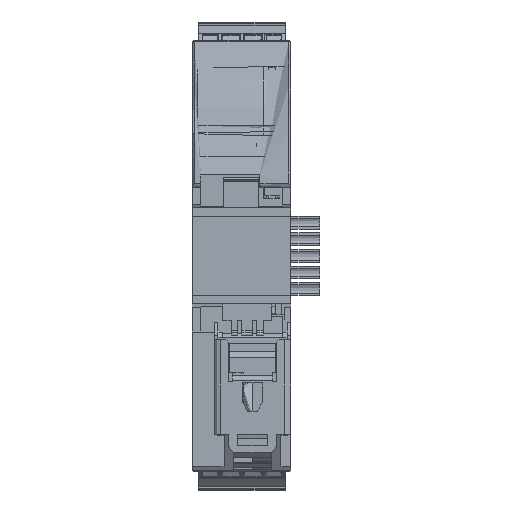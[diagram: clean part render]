
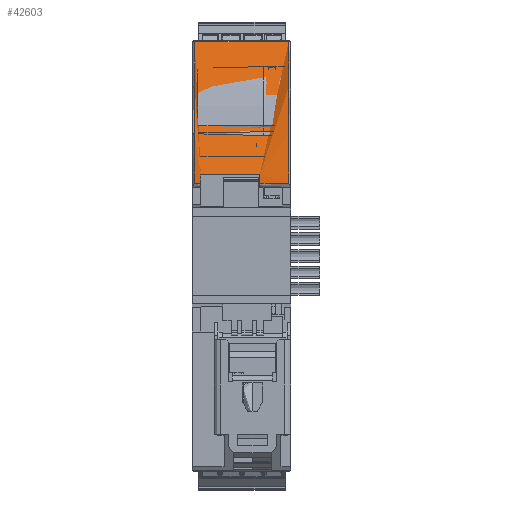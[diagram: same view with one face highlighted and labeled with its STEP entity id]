
A CAD part, left-side view. The second image highlights one B-rep face of the part: STEP entity #42603.
In plain terms, the highlighted cylindrical face has radius 80 mm (diameter 160 mm), a partial arc.
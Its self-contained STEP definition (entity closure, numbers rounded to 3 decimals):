
#42603=ADVANCED_FACE('',(#99639),#99641,.T.);
#99639=FACE_BOUND('',#99640,.T.);
#99640=EDGE_LOOP('',(#155761,#155762,#155763,#155764,#155765,#155766,#155767,#155768));
#99641=CYLINDRICAL_SURFACE('',#99642,80.);
#99642=AXIS2_PLACEMENT_3D('',#99643,#99644,#99645);
#99643=CARTESIAN_POINT('',(75.75,12.1,13.5));
#99644=DIRECTION('',(0.,-1.,0.));
#99645=DIRECTION('',(0.,0.,-1.));
#155761=ORIENTED_EDGE('',*,*,#184090,.F.);
#155762=ORIENTED_EDGE('',*,*,#184081,.T.);
#155763=ORIENTED_EDGE('',*,*,#184096,.F.);
#155764=ORIENTED_EDGE('',*,*,#182865,.F.);
#155765=ORIENTED_EDGE('',*,*,#182862,.T.);
#155766=ORIENTED_EDGE('',*,*,#187227,.T.);
#155767=ORIENTED_EDGE('',*,*,#182748,.T.);
#155768=ORIENTED_EDGE('',*,*,#182746,.T.);
#182746=EDGE_CURVE('',#212554,#212552,#212555,.T.);
#182748=EDGE_CURVE('',#212557,#212554,#212558,.T.);
#182862=EDGE_CURVE('',#212752,#212753,#212754,.T.);
#182865=EDGE_CURVE('',#212752,#212757,#212758,.T.);
#184081=EDGE_CURVE('',#214635,#214633,#214636,.T.);
#184090=EDGE_CURVE('',#214635,#212552,#214649,.T.);
#184096=EDGE_CURVE('',#212757,#214633,#214657,.T.);
#187227=EDGE_CURVE('',#212753,#212557,#219477,.T.);
#212552=VERTEX_POINT('',#274993);
#212554=VERTEX_POINT('',#274998);
#212555=LINE('',#274999,#275000);
#212557=VERTEX_POINT('',#275071);
#212558=CIRCLE('',#275072,80.);
#212752=VERTEX_POINT('',#275621);
#212753=VERTEX_POINT('',#275622);
#212754=CIRCLE('',#275623,80.);
#212757=VERTEX_POINT('',#275713);
#212758=LINE('',#275714,#275715);
#214633=VERTEX_POINT('',#281179);
#214635=VERTEX_POINT('',#281183);
#214636=LINE('',#281184,#281185);
#214649=CIRCLE('',#281215,80.);
#214657=CIRCLE('',#281236,80.);
#219477=LINE('',#293216,#293217);
#274993=CARTESIAN_POINT('',(-4.184,20.7,16.741));
#274998=CARTESIAN_POINT('',(-4.184,22.1,16.741));
#274999=CARTESIAN_POINT('',(-4.184,22.1,16.741));
#275000=VECTOR('',#275001,1.);
#275001=DIRECTION('',(0.,-1.,0.));
#275071=CARTESIAN_POINT('',(4.169,22.1,49.223));
#275072=AXIS2_PLACEMENT_3D('',#275073,#275074,#275075);
#275073=CARTESIAN_POINT('',(75.75,22.1,13.5));
#275074=DIRECTION('',(0.,-1.,0.));
#275075=DIRECTION('',(-0.895,0.,0.447));
#275621=CARTESIAN_POINT('',(-4.184,0.5,16.741));
#275622=CARTESIAN_POINT('',(4.169,0.5,49.223));
#275623=AXIS2_PLACEMENT_3D('',#275624,#275625,#275626);
#275624=CARTESIAN_POINT('',(75.75,0.5,13.5));
#275625=DIRECTION('',(0.,1.,0.));
#275626=DIRECTION('',(-0.999,0.,0.041));
#275713=CARTESIAN_POINT('',(-4.184,7.1,16.741));
#275714=CARTESIAN_POINT('',(-4.184,0.5,16.741));
#275715=VECTOR('',#275716,1.);
#275716=DIRECTION('',(0.,1.,0.));
#281179=CARTESIAN_POINT('',(-4.081,7.1,18.7));
#281183=CARTESIAN_POINT('',(-4.081,20.7,18.7));
#281184=CARTESIAN_POINT('',(-4.081,20.7,18.7));
#281185=VECTOR('',#281186,1.);
#281186=DIRECTION('',(0.,-1.,0.));
#281215=AXIS2_PLACEMENT_3D('',#281216,#281217,#281218);
#281216=CARTESIAN_POINT('',(75.75,20.7,13.5));
#281217=DIRECTION('',(0.,-1.,0.));
#281218=DIRECTION('',(-0.998,0.,0.065));
#281236=AXIS2_PLACEMENT_3D('',#281237,#281238,#281239);
#281237=CARTESIAN_POINT('',(75.75,7.1,13.5));
#281238=DIRECTION('',(0.,1.,0.));
#281239=DIRECTION('',(-0.999,0.,0.041));
#293216=CARTESIAN_POINT('',(4.169,0.5,49.223));
#293217=VECTOR('',#293218,1.);
#293218=DIRECTION('',(0.,1.,0.));
